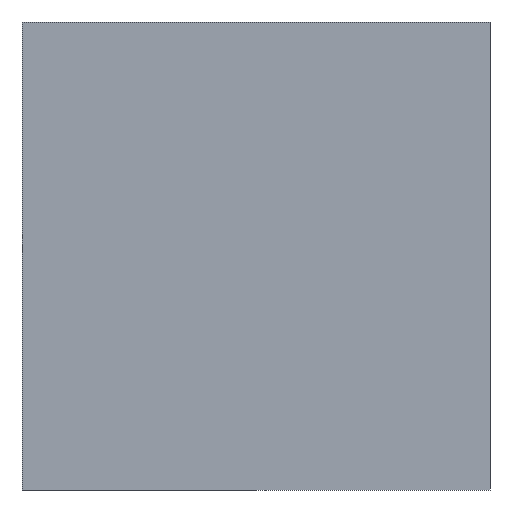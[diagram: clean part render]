
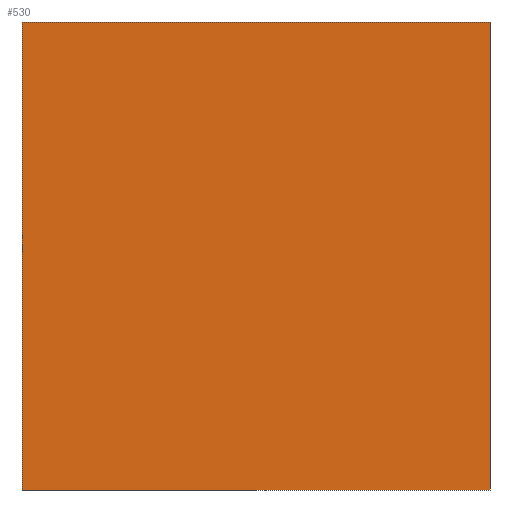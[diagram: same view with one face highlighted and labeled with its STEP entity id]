
A CAD part, left-side view. The second image highlights one B-rep face of the part: STEP entity #530.
In plain terms, the highlighted planar face has unit normal (-1, 0, 0).
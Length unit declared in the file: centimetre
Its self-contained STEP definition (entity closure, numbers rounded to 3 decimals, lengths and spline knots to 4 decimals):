
#58 = VERTEX_POINT ( 'NONE', #223 ) ;
#64 = DIRECTION ( 'NONE',  ( 0., -1., 0. ) ) ;
#71 = VERTEX_POINT ( 'NONE', #543 ) ;
#109 = FACE_OUTER_BOUND ( 'NONE', #145, .T. ) ;
#122 = EDGE_CURVE ( 'NONE', #233, #761, #793, .T. ) ;
#145 = EDGE_LOOP ( 'NONE', ( #237, #613, #515, #154 ) ) ;
#154 = ORIENTED_EDGE ( 'NONE', *, *, #122, .T. ) ;
#208 = LINE ( 'NONE', #776, #332 ) ;
#223 = CARTESIAN_POINT ( 'NONE',  ( 0., 0., 0. ) ) ;
#233 = VERTEX_POINT ( 'NONE', #760 ) ;
#237 = ORIENTED_EDGE ( 'NONE', *, *, #695, .T. ) ;
#311 = CARTESIAN_POINT ( 'NONE',  ( 0., 1000., 0. ) ) ;
#332 = VECTOR ( 'NONE', #652, 100. ) ;
#373 = CARTESIAN_POINT ( 'NONE',  ( 0., 1000., 0. ) ) ;
#377 = LINE ( 'NONE', #311, #610 ) ;
#397 = AXIS2_PLACEMENT_3D ( 'NONE', #666, #472, #535 ) ;
#416 = EDGE_CURVE ( 'NONE', #71, #58, #208, .T. ) ;
#464 = EDGE_CURVE ( 'NONE', #233, #71, #784, .T. ) ;
#467 = CARTESIAN_POINT ( 'NONE',  ( 0., 1000., 1000. ) ) ;
#472 = DIRECTION ( 'NONE',  ( 1., 0., 0. ) ) ;
#477 = DIRECTION ( 'NONE',  ( 0., 0., -1. ) ) ;
#515 = ORIENTED_EDGE ( 'NONE', *, *, #464, .F. ) ;
#524 = VECTOR ( 'NONE', #477, 100. ) ;
#530 = ADVANCED_FACE ( 'NONE', ( #109 ), #599, .F. ) ;
#535 = DIRECTION ( 'NONE',  ( 0., 0., -1. ) ) ;
#543 = CARTESIAN_POINT ( 'NONE',  ( 0., 0., 1000. ) ) ;
#546 = DIRECTION ( 'NONE',  ( 0., -1., 0. ) ) ;
#569 = VECTOR ( 'NONE', #546, 100. ) ;
#599 = PLANE ( 'NONE',  #397 ) ;
#610 = VECTOR ( 'NONE', #64, 100. ) ;
#613 = ORIENTED_EDGE ( 'NONE', *, *, #416, .F. ) ;
#652 = DIRECTION ( 'NONE',  ( 0., 0., -1. ) ) ;
#666 = CARTESIAN_POINT ( 'NONE',  ( 0., 1000., 1000. ) ) ;
#695 = EDGE_CURVE ( 'NONE', #761, #58, #377, .T. ) ;
#760 = CARTESIAN_POINT ( 'NONE',  ( 0., 1000., 1000. ) ) ;
#761 = VERTEX_POINT ( 'NONE', #373 ) ;
#776 = CARTESIAN_POINT ( 'NONE',  ( 0., 0., 1000. ) ) ;
#784 = LINE ( 'NONE', #792, #569 ) ;
#792 = CARTESIAN_POINT ( 'NONE',  ( 0., 1000., 1000. ) ) ;
#793 = LINE ( 'NONE', #467, #524 ) ;
